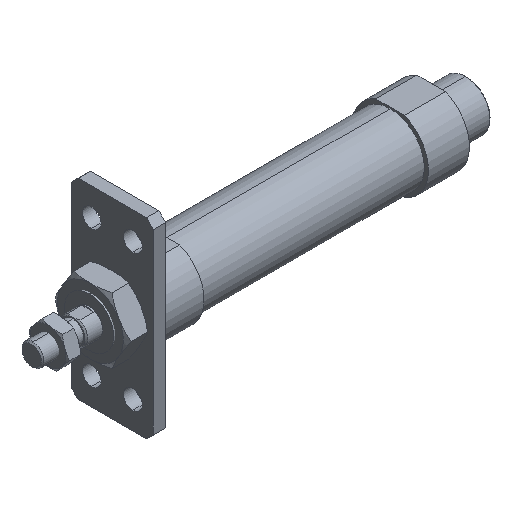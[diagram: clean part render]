
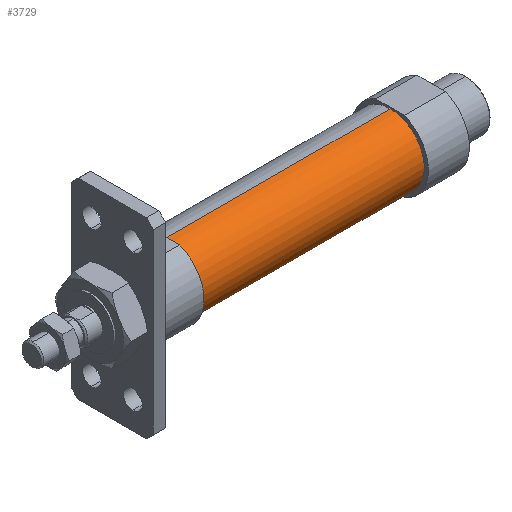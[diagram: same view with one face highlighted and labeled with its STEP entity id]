
A CAD part, isometric view. The second image highlights one B-rep face of the part: STEP entity #3729.
In plain terms, the highlighted cylindrical face has radius 12.5 mm (diameter 25 mm), a partial arc.
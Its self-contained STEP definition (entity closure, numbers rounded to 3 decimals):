
#12 = CIRCLE ( 'NONE', #3227, 12.5 ) ;
#68 = ORIENTED_EDGE ( 'NONE', *, *, #970, .T. ) ;
#199 = EDGE_CURVE ( 'NONE', #1026, #836, #12, .T. ) ;
#415 = LINE ( 'NONE', #3432, #2652 ) ;
#514 = ORIENTED_EDGE ( 'NONE', *, *, #199, .F. ) ;
#519 = DIRECTION ( 'NONE',  ( 0., 0., 1. ) ) ;
#836 = VERTEX_POINT ( 'NONE', #1387 ) ;
#910 = CARTESIAN_POINT ( 'NONE',  ( -6.469, 0., 0. ) ) ;
#943 = DIRECTION ( 'NONE',  ( 0., 0., 1. ) ) ;
#970 = EDGE_CURVE ( 'NONE', #1635, #836, #415, .T. ) ;
#1026 = VERTEX_POINT ( 'NONE', #3762 ) ;
#1208 = DIRECTION ( 'NONE',  ( -1., 0., 0. ) ) ;
#1351 = FACE_OUTER_BOUND ( 'NONE', #3463, .T. ) ;
#1387 = CARTESIAN_POINT ( 'NONE',  ( 49., 0., 12.5 ) ) ;
#1413 = CYLINDRICAL_SURFACE ( 'NONE', #1983, 12.5 ) ;
#1457 = CIRCLE ( 'NONE', #2042, 12.5 ) ;
#1461 = ORIENTED_EDGE ( 'NONE', *, *, #3084, .T. ) ;
#1476 = DIRECTION ( 'NONE',  ( 0., 0., 1. ) ) ;
#1521 = DIRECTION ( 'NONE',  ( -1., 0., 0. ) ) ;
#1566 = CARTESIAN_POINT ( 'NONE',  ( 49., 0., 0. ) ) ;
#1635 = VERTEX_POINT ( 'NONE', #3647 ) ;
#1809 = CARTESIAN_POINT ( 'NONE',  ( 131., 0., -12.5 ) ) ;
#1810 = ORIENTED_EDGE ( 'NONE', *, *, #3004, .F. ) ;
#1919 = CARTESIAN_POINT ( 'NONE',  ( -6.469, 0., -12.5 ) ) ;
#1983 = AXIS2_PLACEMENT_3D ( 'NONE', #910, #2936, #1476 ) ;
#2042 = AXIS2_PLACEMENT_3D ( 'NONE', #2923, #1208, #519 ) ;
#2652 = VECTOR ( 'NONE', #3823, 1000. ) ;
#2921 = LINE ( 'NONE', #1919, #3052 ) ;
#2923 = CARTESIAN_POINT ( 'NONE',  ( 131., 0., 0. ) ) ;
#2936 = DIRECTION ( 'NONE',  ( -1., 0., 0. ) ) ;
#3004 = EDGE_CURVE ( 'NONE', #3800, #1026, #2921, .T. ) ;
#3052 = VECTOR ( 'NONE', #1521, 1000. ) ;
#3084 = EDGE_CURVE ( 'NONE', #3800, #1635, #1457, .T. ) ;
#3227 = AXIS2_PLACEMENT_3D ( 'NONE', #1566, #3398, #943 ) ;
#3398 = DIRECTION ( 'NONE',  ( -1., 0., 0. ) ) ;
#3432 = CARTESIAN_POINT ( 'NONE',  ( -6.469, 0., 12.5 ) ) ;
#3463 = EDGE_LOOP ( 'NONE', ( #1810, #1461, #68, #514 ) ) ;
#3647 = CARTESIAN_POINT ( 'NONE',  ( 131., 0., 12.5 ) ) ;
#3729 = ADVANCED_FACE ( 'NONE', ( #1351 ), #1413, .T. ) ;
#3762 = CARTESIAN_POINT ( 'NONE',  ( 49., 0., -12.5 ) ) ;
#3800 = VERTEX_POINT ( 'NONE', #1809 ) ;
#3823 = DIRECTION ( 'NONE',  ( -1., 0., 0. ) ) ;
